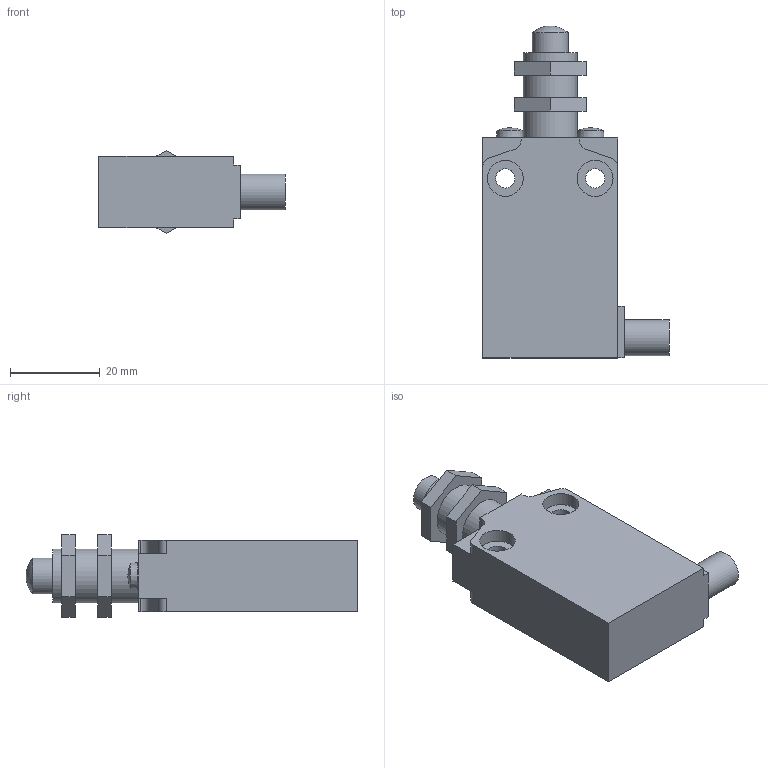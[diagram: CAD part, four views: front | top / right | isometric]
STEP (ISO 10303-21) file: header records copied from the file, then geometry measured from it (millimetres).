
FILE_DESCRIPTION((''),'2;1');
FILE_NAME('C:\Workarea\Disegni\Comepi\Catalogo\Stp\Finecorsa\EM1G21.iam.step','2011-07-22T16:16:36',(''),(''),'Autodesk Inventor 2012','Autodesk Inventor 2012','');
FILE_SCHEMA(('AUTOMOTIVE_DESIGN { 1 0 10303 214 1 1 1 1 }'));
Length unit declared in the file: millimetre
Products named in the file (6): EM1G21; EM1; G21; G21_1; G21_2; G21_3
Assembly tree (6 placements, depth 3):
  EM1G21
    EM1
    G21
      G21_1
      G21_2  x2
      G21_3
Bounding box: 41.5 x 73.96 x 18.48 mm (x, y, z)
Volume: 25648.8 mm3; surface area: 8737.7 mm2
Topology: 5 solids, 5 shells, 74 faces, 166 edges, 110 vertices
Faces by surface type: plane 47, cylinder 20, sphere 3, torus 2, cone 2
Full cylindrical faces by diameter (mm): 4.3 x2, 8 x7, 12 x3
Entity records: 1920 total; most frequent: DIRECTION 328, CARTESIAN_POINT 303, ORIENTED_EDGE 260, EDGE_CURVE 130, AXIS2_PLACEMENT_3D 121, VERTEX_POINT 96, EDGE_LOOP 94, VECTOR 86
